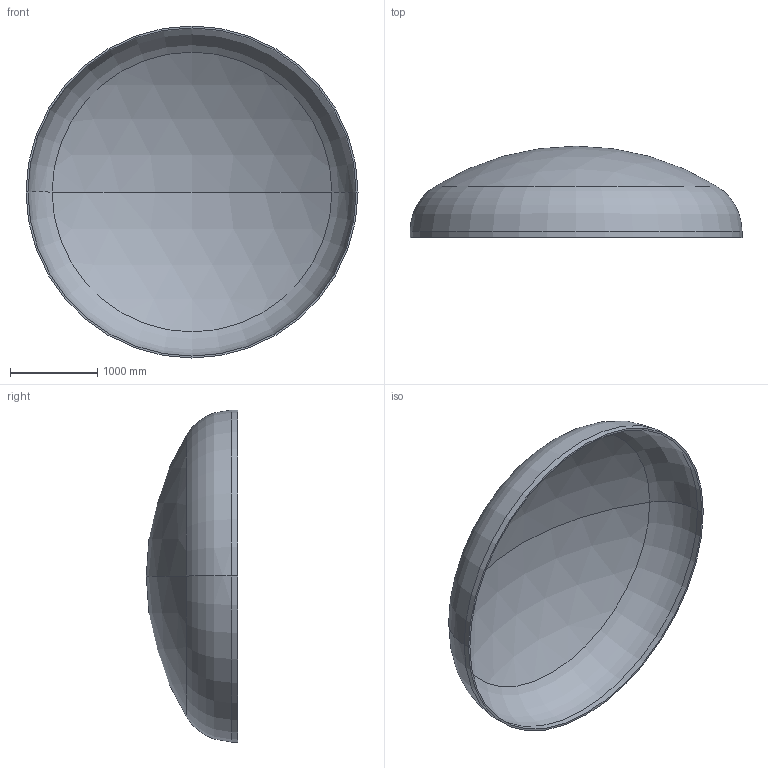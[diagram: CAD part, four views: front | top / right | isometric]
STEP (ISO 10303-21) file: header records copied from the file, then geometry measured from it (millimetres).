
FILE_DESCRIPTION (( 'STEP AP203' ), '1' );
FILE_NAME ('DIN 28013 Korbbogenform_-_Boden DIN 28013 - 3800 x 70 - I - s=22.step', '2016-07-01T21:09:59', ( '' ), ( '' ), 'SwSTEP 2.0', 'SolidWorks 2013', '' );
FILE_SCHEMA (( 'CONFIG_CONTROL_DESIGN' ));
Length unit declared in the file: millimetre
Products named in the file (1): DIN 28013 Korbbogenform_-_Boden DIN 28013 - 3800 x 70 - I - s=22
Bounding box: 3800 x 1045.09 x 3800 mm (x, y, z)
Volume: 361190209.7 mm3; surface area: 33097591.1 mm2
Topology: 1 solids, 1 shells, 13 faces, 24 edges, 14 vertices
Faces by surface type: torus 4, cylinder 4, sphere 4, plane 1
Entity records: 407 total; most frequent: DIRECTION 72, CARTESIAN_POINT 52, ORIENTED_EDGE 48, AXIS2_PLACEMENT_3D 34, EDGE_CURVE 24, CIRCLE 20, VERTEX_POINT 14, EDGE_LOOP 14
